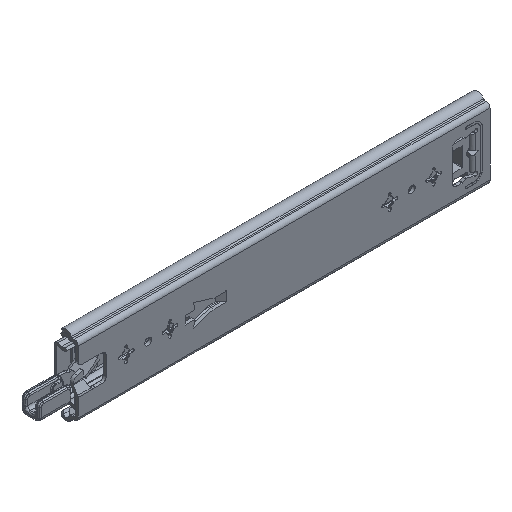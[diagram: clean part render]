
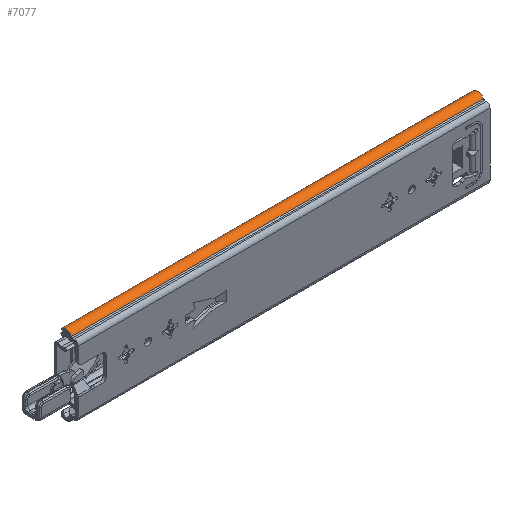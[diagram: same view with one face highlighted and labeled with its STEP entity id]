
A CAD part, isometric view. The second image highlights one B-rep face of the part: STEP entity #7077.
In plain terms, the highlighted cylindrical face has radius 4.8 mm (diameter 9.6 mm), a partial arc.
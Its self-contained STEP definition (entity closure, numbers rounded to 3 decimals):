
#27=CARTESIAN_POINT('',(0.,9.,24.05));
#28=DIRECTION('',(1.,0.,0.));
#29=DIRECTION('',(0.,0.547,0.837));
#30=AXIS2_PLACEMENT_3D('',#27,#28,#29);
#2588=CARTESIAN_POINT('',(300.,11.624,28.069));
#2589=CARTESIAN_POINT('',(300.,11.777,27.969));
#2590=CARTESIAN_POINT('',(299.968,12.066,27.756));
#2591=CARTESIAN_POINT('',(299.874,12.321,27.52));
#2592=CARTESIAN_POINT('',(299.81,12.44,27.398));
#2594=DIRECTION('',(1.,0.,0.));
#2595=VECTOR('',#2594,300.);
#2596=CARTESIAN_POINT('',(0.,4.762,26.304));
#2597=LINE('',#2596,#2595);
#2598=CARTESIAN_POINT('',(0.19,12.44,27.398));
#2599=CARTESIAN_POINT('',(0.126,12.322,27.519));
#2600=CARTESIAN_POINT('',(0.032,12.067,27.755));
#2601=CARTESIAN_POINT('',(0.,11.778,27.969));
#2602=CARTESIAN_POINT('',(0.,11.624,28.069));
#2604=DIRECTION('',(1.,0.,0.));
#2605=VECTOR('',#2604,299.62);
#2606=CARTESIAN_POINT('',(0.19,12.44,27.398));
#2607=LINE('',#2606,#2605);
#2675=CARTESIAN_POINT('',(300.,9.,24.05));
#2676=DIRECTION('',(1.,0.,0.));
#2677=DIRECTION('',(0.,0.547,0.837));
#2678=AXIS2_PLACEMENT_3D('',#2675,#2676,#2677);
#3104=CARTESIAN_POINT('',(0.,4.762,26.304));
#3105=CARTESIAN_POINT('',(300.,4.762,26.304));
#3106=VERTEX_POINT('',#3104);
#3107=VERTEX_POINT('',#3105);
#3693=VERTEX_POINT('',#2588);
#3694=VERTEX_POINT('',#2592);
#3726=CARTESIAN_POINT('',(0.19,12.44,27.398));
#3727=VERTEX_POINT('',#3726);
#3728=VERTEX_POINT('',#2602);
#7060=CARTESIAN_POINT('',(0.,9.,24.05));
#7061=DIRECTION('',(1.,0.,0.));
#7062=DIRECTION('',(0.,-1.,0.));
#7063=AXIS2_PLACEMENT_3D('',#7060,#7061,#7062);
#7064=CYLINDRICAL_SURFACE('',#7063,4.8);
#7065=ORIENTED_EDGE('',*,*,#7047,.F.);
#7067=ORIENTED_EDGE('',*,*,#7066,.T.);
#7069=ORIENTED_EDGE('',*,*,#7068,.F.);
#7070=ORIENTED_EDGE('',*,*,#3953,.F.);
#7072=ORIENTED_EDGE('',*,*,#7071,.F.);
#7074=ORIENTED_EDGE('',*,*,#7073,.T.);
#7075=EDGE_LOOP('',(#7065,#7067,#7069,#7070,#7072,#7074));
#7076=FACE_OUTER_BOUND('',#7075,.F.);
#31=CIRCLE('',#30,4.8);
#2593=B_SPLINE_CURVE_WITH_KNOTS('',3,(#2588,#2589,#2590,#2591,#2592),
.UNSPECIFIED.,.F.,.F.,(4,1,4),(0.,0.5,1.),.UNSPECIFIED.);
#2603=B_SPLINE_CURVE_WITH_KNOTS('',3,(#2598,#2599,#2600,#2601,#2602),
.UNSPECIFIED.,.F.,.F.,(4,1,4),(0.,0.5,1.),.UNSPECIFIED.);
#2679=CIRCLE('',#2678,4.8);
#3953=EDGE_CURVE('',#3728,#3106,#31,.T.);
#7047=EDGE_CURVE('',#3693,#3694,#2593,.T.);
#7066=EDGE_CURVE('',#3693,#3107,#2679,.T.);
#7068=EDGE_CURVE('',#3106,#3107,#2597,.T.);
#7071=EDGE_CURVE('',#3727,#3728,#2603,.T.);
#7073=EDGE_CURVE('',#3727,#3694,#2607,.T.);
#7077=ADVANCED_FACE('',(#7076),#7064,.T.);
